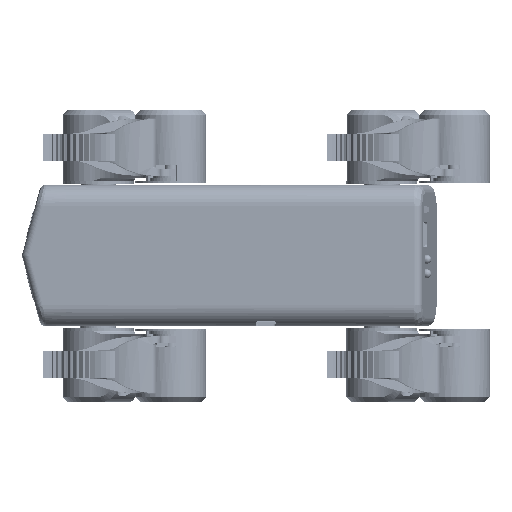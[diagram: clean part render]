
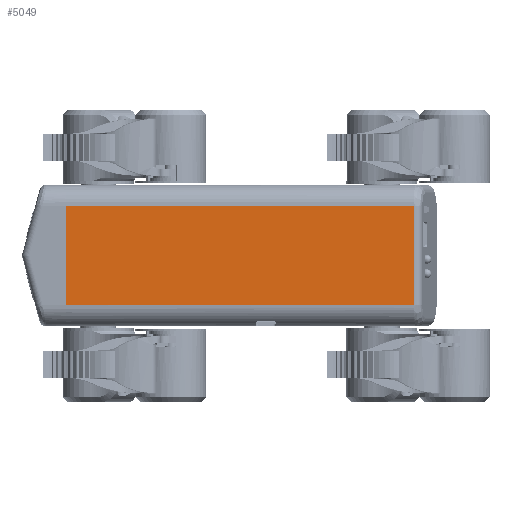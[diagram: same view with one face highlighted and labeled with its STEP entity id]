
A CAD part, front view. The second image highlights one B-rep face of the part: STEP entity #5049.
In plain terms, the highlighted planar face has unit normal (0, -1, 0).
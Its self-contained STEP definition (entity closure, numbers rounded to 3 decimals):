
#1=DIRECTION('',(0.,0.,1.));
#2=VECTOR('',#1,56.);
#3=CARTESIAN_POINT('',(90.901,0.,-28.));
#4=LINE('',#3,#2);
#5=DIRECTION('',(1.,0.,0.));
#6=VECTOR('',#5,195.901);
#7=CARTESIAN_POINT('',(-105.,0.,-28.));
#8=LINE('',#7,#6);
#9=DIRECTION('',(0.,0.,1.));
#10=VECTOR('',#9,56.);
#11=CARTESIAN_POINT('',(-105.,0.,-28.));
#12=LINE('',#11,#10);
#13=DIRECTION('',(-1.,0.,0.));
#14=VECTOR('',#13,195.901);
#15=CARTESIAN_POINT('',(90.901,0.,28.));
#16=LINE('',#15,#14);
#2910=CARTESIAN_POINT('',(90.901,0.,
-28.));
#3997=CARTESIAN_POINT('',(-105.,0.,28.));
#3999=VERTEX_POINT('',#3997);
#4002=CARTESIAN_POINT('',(-105.,0.,-28.));
#4004=VERTEX_POINT('',#4002);
#4010=VERTEX_POINT('',#2910);
#4012=CARTESIAN_POINT('',(90.901,0.,
28.));
#4013=VERTEX_POINT('',#4012);
#5034=CARTESIAN_POINT('',(0.,0.,0.));
#5035=DIRECTION('',(0.,1.,0.));
#5036=DIRECTION('',(1.,0.,0.));
#5037=AXIS2_PLACEMENT_3D('',#5034,#5035,#5036);
#5038=PLANE('',#5037);
#5040=ORIENTED_EDGE('',*,*,#5039,.F.);
#5042=ORIENTED_EDGE('',*,*,#5041,.F.);
#5044=ORIENTED_EDGE('',*,*,#5043,.T.);
#5046=ORIENTED_EDGE('',*,*,#5045,.F.);
#5047=EDGE_LOOP('',(#5040,#5042,#5044,#5046));
#5048=FACE_OUTER_BOUND('',#5047,.F.);
#5049=ADVANCED_FACE('',(#5048),#5038,.F.);
#5039=EDGE_CURVE('',#4010,#4013,#4,.T.);
#5041=EDGE_CURVE('',#4004,#4010,#8,.T.);
#5043=EDGE_CURVE('',#4004,#3999,#12,.T.);
#5045=EDGE_CURVE('',#4013,#3999,#16,.T.);
